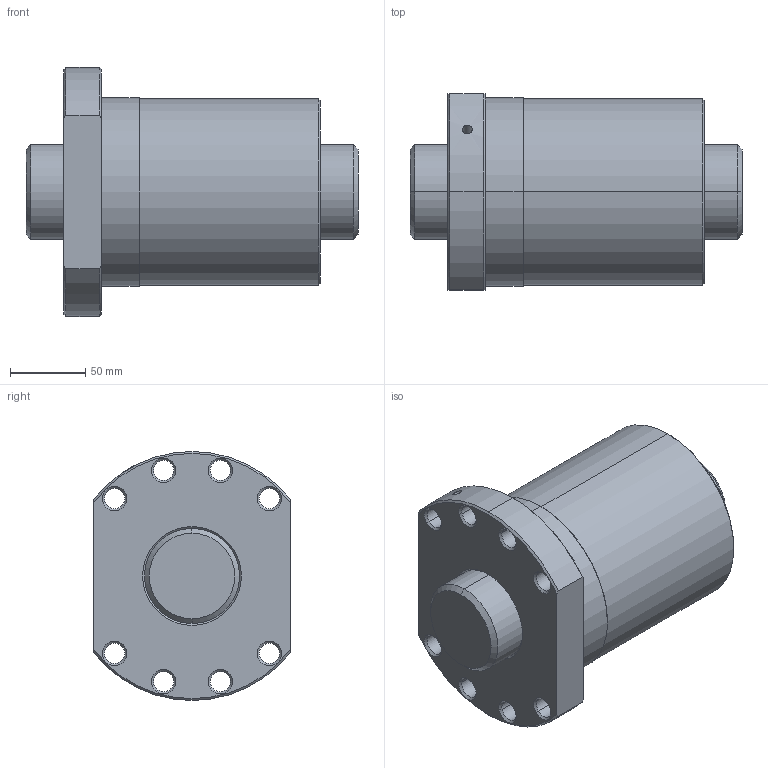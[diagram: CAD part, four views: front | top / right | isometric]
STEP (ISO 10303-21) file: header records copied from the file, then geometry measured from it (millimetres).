
FILE_DESCRIPTION(('no description'),'unknown implementation level');
FILE_NAME('R63_20K6_DEBH_220_220_0_023_49.stp',' ',('HIWIN GmbH'),('CADClick - KiM GmbH - www.kimweb.de'),'unknown preprocess','ACIS','unknown authorization');
FILE_SCHEMA(('CONFIG_CONTROL_DESIGN'));
Length unit declared in the file: millimetre
Products named in the file (2): 1; 2
Bounding box: 220 x 130 x 165 mm (x, y, z)
Volume: 2352712.3 mm3; surface area: 188551.5 mm2
Topology: 2 solids, 2 shells, 90 faces, 204 edges, 119 vertices
Faces by surface type: cone 52, cylinder 30, plane 8
Entity records: 2677 total; most frequent: CARTESIAN_POINT 496, DIRECTION 484, ORIENTED_EDGE 404, EDGE_CURVE 202, AXIS2_PLACEMENT_3D 200, VERTEX_POINT 119, EDGE_LOOP 111, CIRCLE 108
